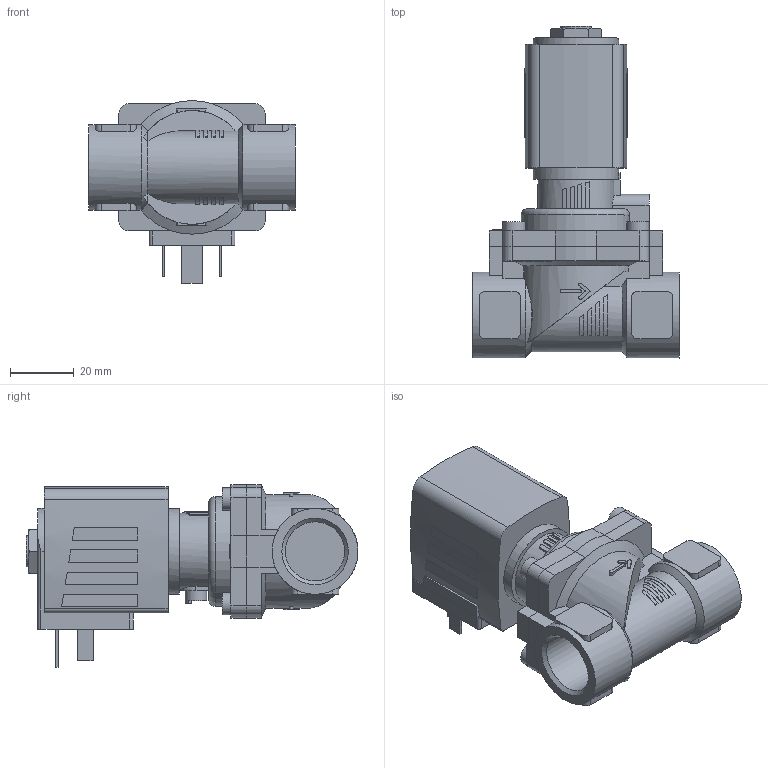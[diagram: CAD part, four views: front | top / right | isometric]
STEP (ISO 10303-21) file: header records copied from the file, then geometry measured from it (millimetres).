
FILE_DESCRIPTION(/* description */ ('STEP AP214'),/* implementation_level */ '2;1');
FILE_NAME(/* name */ '6281-260366-2_2-Way_Solenoid_Valve__Servo-assisted__General_Purpose',/* time_stamp */ '2024-05-19T23:15:35+02:00',/* author */ ('License CC BY-ND 4.0'),/* organization */ ('CADENAS'),/* preprocessor_version */ 'ST-DEVELOPER v19.3',/* originating_system */ 'PARTsolutions',/* authorisation */ ' ');
FILE_SCHEMA (('AUTOMOTIVE_DESIGN {1 0 10303 214 3 1 1}'));
Length unit declared in the file: millimetre
Products named in the file (4): 6281-260366-2/2-Way Solenoid Valve, Servo-assisted, General Purpose; 5281ev131MS2/2-Wege-Magnetventil mit Servomembran-Deckel 42 ; 6213-13G1/2MS-Gehaeuse-lang; AC10ex-5NA38-Plan-Coil
Assembly tree (3 placements, depth 2):
  6281-260366-2/2-Way Solenoid Valve, Servo-assisted, General Purpose
    5281ev131MS2/2-Wege-Magnetventil mit Servomembran-Deckel 42 
    6213-13G1/2MS-Gehaeuse-lang
    AC10ex-5NA38-Plan-Coil
Bounding box: 65 x 104.5 x 57.5 mm (x, y, z)
Volume: 119088.9 mm3; surface area: 29403.9 mm2
Topology: 3 solids, 3 shells, 359 faces, 919 edges, 602 vertices
Faces by surface type: plane 250, cylinder 95, cone 13, torus 1
Full cylindrical faces by diameter (mm): 2.013 x1, 6.8 x1, 7 x4, 9.74 x1, 18.631 x2, 27 x3
Entity records: 12293 total; most frequent: CARTESIAN_POINT 2117, DIRECTION 1824, ORIENTED_EDGE 1792, EDGE_CURVE 896, AXIS2_PLACEMENT_3D 634, VERTEX_POINT 595, LINE 556, VECTOR 556
